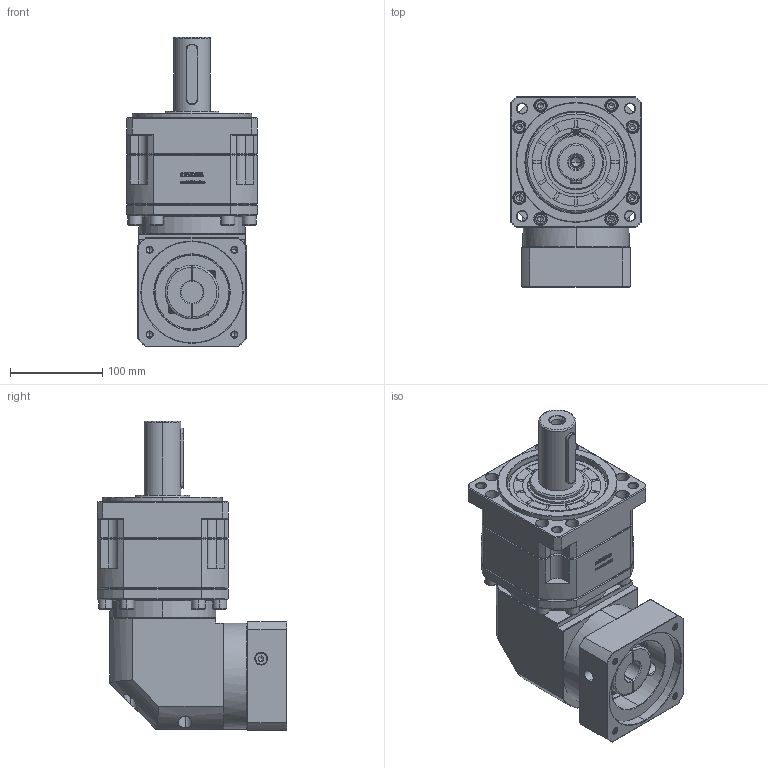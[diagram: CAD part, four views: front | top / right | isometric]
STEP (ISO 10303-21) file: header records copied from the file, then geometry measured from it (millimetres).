
FILE_DESCRIPTION (( 'STEP AP214' ), '1' );
FILE_NAME ('ZBR142A-D40-L2-24-110-130-M8.step', '2023-03-20T04:11:32', ( '' ), ( '' ), 'SwSTEP 2.0', 'SolidWorks 2016', '' );
FILE_SCHEMA (( 'AUTOMOTIVE_DESIGN' ));
Length unit declared in the file: millimetre
Products named in the file (1): ZBR142A-D40-L2-24-110-130-M8
Bounding box: 142 x 205.9 x 335.2 mm (x, y, z)
Volume: 4368029.6 mm3; surface area: 317776.5 mm2
Topology: 6 solids, 6 shells, 3191 faces, 8423 edges, 5400 vertices
Faces by surface type: plane 1652, bspline 592, cylinder 502, cone 399, torus 46
Entity records: 170805 total; most frequent: CARTESIAN_POINT 61426, ORIENTED_EDGE 16738, DIRECTION 13105, EDGE_CURVE 8369, VECTOR 5591, LINE 5591, VERTEX_POINT 5400, AXIS2_PLACEMENT_3D 3757
